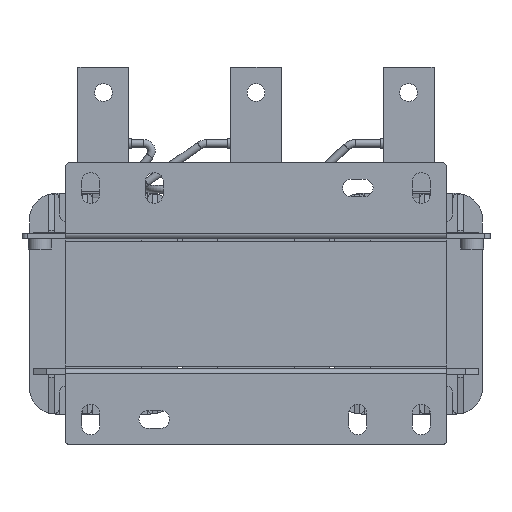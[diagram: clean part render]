
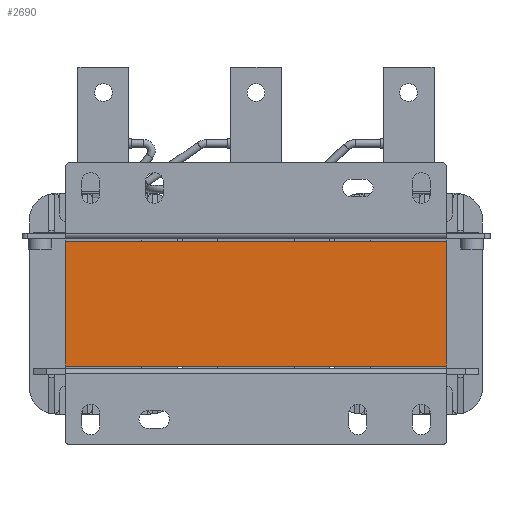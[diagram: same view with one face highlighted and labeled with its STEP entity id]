
A CAD part, front view. The second image highlights one B-rep face of the part: STEP entity #2690.
In plain terms, the highlighted planar face has unit normal (0, -1, 0).
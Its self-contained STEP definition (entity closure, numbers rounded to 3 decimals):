
#2690=ADVANCED_FACE('',(#15663),#15665,.F.);
#15663=FACE_BOUND('',#15664,.T.);
#15664=EDGE_LOOP('',(#29243,#29244,#29245,#29246));
#15665=PLANE('',#15666);
#15666=AXIS2_PLACEMENT_3D('',#15667,#15668,#15669);
#15667=CARTESIAN_POINT('',(-75.,-76.,49.));
#15668=DIRECTION('',(0.,1.,0.));
#15669=DIRECTION('',(-1.,0.,0.));
#29243=ORIENTED_EDGE('',*,*,#36454,.T.);
#29244=ORIENTED_EDGE('',*,*,#36466,.F.);
#29245=ORIENTED_EDGE('',*,*,#36444,.F.);
#29246=ORIENTED_EDGE('',*,*,#36468,.T.);
#36444=EDGE_CURVE('',#40081,#40076,#40083,.T.);
#36454=EDGE_CURVE('',#40103,#40100,#40104,.T.);
#36466=EDGE_CURVE('',#40076,#40100,#40125,.T.);
#36468=EDGE_CURVE('',#40081,#40103,#40127,.T.);
#40076=VERTEX_POINT('',#46202);
#40081=VERTEX_POINT('',#46211);
#40083=LINE('',#46215,#46216);
#40100=VERTEX_POINT('',#46250);
#40103=VERTEX_POINT('',#46255);
#40104=LINE('',#46256,#46257);
#40125=LINE('',#46301,#46302);
#40127=LINE('',#46307,#46308);
#46202=CARTESIAN_POINT('',(75.,-76.,49.));
#46211=CARTESIAN_POINT('',(-75.,-76.,49.));
#46215=CARTESIAN_POINT('',(-75.,-76.,49.));
#46216=VECTOR('',#46217,1.);
#46217=DIRECTION('',(1.,0.,0.));
#46250=CARTESIAN_POINT('',(75.,-76.,0.));
#46255=CARTESIAN_POINT('',(-75.,-76.,0.));
#46256=CARTESIAN_POINT('',(-75.,-76.,0.));
#46257=VECTOR('',#46258,1.);
#46258=DIRECTION('',(1.,0.,0.));
#46301=CARTESIAN_POINT('',(75.,-76.,49.));
#46302=VECTOR('',#46303,1.);
#46303=DIRECTION('',(0.,0.,-1.));
#46307=CARTESIAN_POINT('',(-75.,-76.,49.));
#46308=VECTOR('',#46309,1.);
#46309=DIRECTION('',(0.,0.,-1.));
